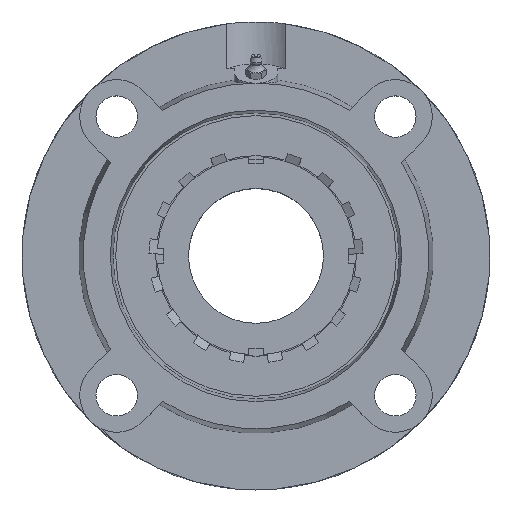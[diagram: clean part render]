
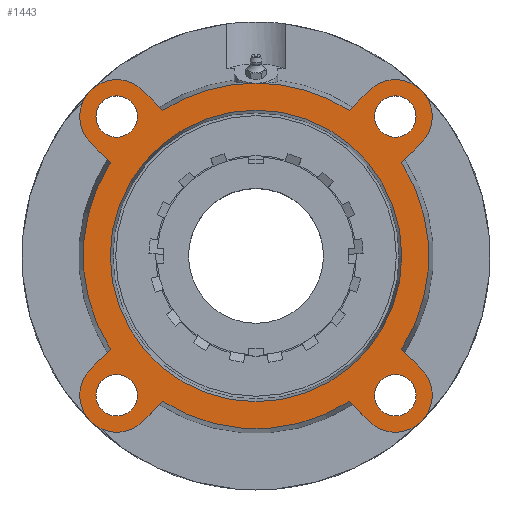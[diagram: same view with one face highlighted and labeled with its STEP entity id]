
A CAD part, top view. The second image highlights one B-rep face of the part: STEP entity #1443.
In plain terms, the highlighted planar face has unit normal (0, 0, 1).
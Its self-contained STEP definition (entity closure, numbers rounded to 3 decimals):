
#181=CARTESIAN_POINT('',(65.928,-77.428,26.));
#182=VERTEX_POINT('',#181);
#183=CARTESIAN_POINT('',(77.428,-77.428,26.));
#184=DIRECTION('',(0.0,0.0,-1.0));
#185=DIRECTION('',(1.0,0.0,0.0));
#186=AXIS2_PLACEMENT_3D('',#183,#184,#185);
#187=CIRCLE('',#186,11.5);
#188=EDGE_CURVE('',#182,#182,#187,.T.);
#209=CARTESIAN_POINT('',(-88.928,77.428,26.));
#210=VERTEX_POINT('',#209);
#211=CARTESIAN_POINT('',(-77.428,77.428,26.));
#212=DIRECTION('',(0.0,0.0,-1.0));
#213=DIRECTION('',(1.0,0.0,0.0));
#214=AXIS2_PLACEMENT_3D('',#211,#212,#213);
#215=CIRCLE('',#214,11.5);
#216=EDGE_CURVE('',#210,#210,#215,.T.);
#237=CARTESIAN_POINT('',(-88.928,-77.428,26.));
#238=VERTEX_POINT('',#237);
#239=CARTESIAN_POINT('',(-77.428,-77.428,26.));
#240=DIRECTION('',(0.0,0.0,-1.0));
#241=DIRECTION('',(1.0,0.0,0.0));
#242=AXIS2_PLACEMENT_3D('',#239,#240,#241);
#243=CIRCLE('',#242,11.5);
#244=EDGE_CURVE('',#238,#238,#243,.T.);
#265=CARTESIAN_POINT('',(65.928,77.428,26.));
#266=VERTEX_POINT('',#265);
#267=CARTESIAN_POINT('',(77.428,77.428,26.));
#268=DIRECTION('',(0.0,0.0,-1.0));
#269=DIRECTION('',(1.0,0.0,0.0));
#270=AXIS2_PLACEMENT_3D('',#267,#268,#269);
#271=CIRCLE('',#270,11.5);
#272=EDGE_CURVE('',#266,#266,#271,.T.);
#445=CARTESIAN_POINT('',(0.0,81.0,26.));
#446=VERTEX_POINT('',#445);
#447=CARTESIAN_POINT('',(0.0,0.,26.));
#448=DIRECTION('',(0.0,0.0,-1.0));
#449=DIRECTION('',(0.0,1.0,0.0));
#450=AXIS2_PLACEMENT_3D('',#447,#448,#449);
#451=CIRCLE('',#450,81.0);
#452=EDGE_CURVE('',#446,#446,#451,.T.);
#722=CARTESIAN_POINT('',(0.,96.0,26.));
#723=VERTEX_POINT('',#722);
#845=CARTESIAN_POINT('',(-51.821,80.812,26.));
#846=VERTEX_POINT('',#845);
#860=CARTESIAN_POINT('',(0.0,0.,26.));
#861=DIRECTION('',(0.0,0.0,-1.0));
#862=DIRECTION('',(0.0,1.0,0.0));
#863=AXIS2_PLACEMENT_3D('',#860,#861,#862);
#864=CIRCLE('',#863,96.);
#865=EDGE_CURVE('',#846,#723,#864,.T.);
#878=CARTESIAN_POINT('',(51.821,80.812,26.));
#879=VERTEX_POINT('',#878);
#880=CARTESIAN_POINT('',(0.0,0.,26.));
#881=DIRECTION('',(0.0,0.0,-1.0));
#882=DIRECTION('',(0.0,1.0,0.0));
#883=AXIS2_PLACEMENT_3D('',#880,#881,#882);
#884=CIRCLE('',#883,96.);
#885=EDGE_CURVE('',#723,#879,#884,.T.);
#909=CARTESIAN_POINT('',(-80.812,51.821,26.));
#910=VERTEX_POINT('',#909);
#926=CARTESIAN_POINT('',(-91.924,62.933,26.));
#927=VERTEX_POINT('',#926);
#928=CARTESIAN_POINT('',(-80.812,51.821,26.));
#929=DIRECTION('',(-0.707,0.707,0.));
#930=VECTOR('',#929,15.714);
#931=LINE('',#928,#930);
#932=EDGE_CURVE('',#910,#927,#931,.T.);
#956=CARTESIAN_POINT('',(-51.821,-80.812,26.));
#957=VERTEX_POINT('',#956);
#973=CARTESIAN_POINT('',(-62.933,-91.924,26.));
#974=VERTEX_POINT('',#973);
#975=CARTESIAN_POINT('',(-51.821,-80.812,26.));
#976=DIRECTION('',(-0.707,-0.707,0.));
#977=VECTOR('',#976,15.714);
#978=LINE('',#975,#977);
#979=EDGE_CURVE('',#957,#974,#978,.T.);
#1003=CARTESIAN_POINT('',(80.812,-51.821,26.));
#1004=VERTEX_POINT('',#1003);
#1020=CARTESIAN_POINT('',(91.924,-62.933,26.));
#1021=VERTEX_POINT('',#1020);
#1022=CARTESIAN_POINT('',(80.812,-51.821,26.));
#1023=DIRECTION('',(0.707,-0.707,0.));
#1024=VECTOR('',#1023,15.714);
#1025=LINE('',#1022,#1024);
#1026=EDGE_CURVE('',#1004,#1021,#1025,.T.);
#1051=CARTESIAN_POINT('',(62.933,91.924,26.));
#1052=VERTEX_POINT('',#1051);
#1053=CARTESIAN_POINT('',(51.821,80.812,26.));
#1054=DIRECTION('',(0.707,0.707,0.));
#1055=VECTOR('',#1054,15.714);
#1056=LINE('',#1053,#1055);
#1057=EDGE_CURVE('',#879,#1052,#1056,.T.);
#1076=CARTESIAN_POINT('',(51.821,-80.812,26.));
#1077=VERTEX_POINT('',#1076);
#1099=CARTESIAN_POINT('',(62.933,-91.924,26.));
#1100=VERTEX_POINT('',#1099);
#1107=CARTESIAN_POINT('',(62.933,-91.924,26.));
#1108=DIRECTION('',(-0.707,0.707,0.0));
#1109=VECTOR('',#1108,15.714);
#1110=LINE('',#1107,#1109);
#1111=EDGE_CURVE('',#1100,#1077,#1110,.T.);
#1121=CARTESIAN_POINT('',(-91.924,-62.933,26.));
#1122=VERTEX_POINT('',#1121);
#1123=CARTESIAN_POINT('',(-77.428,-77.428,26.));
#1124=DIRECTION('',(0.0,0.0,-1.0));
#1125=DIRECTION('',(-0.638,0.77,0.0));
#1126=AXIS2_PLACEMENT_3D('',#1123,#1124,#1125);
#1127=CIRCLE('',#1126,20.5);
#1128=EDGE_CURVE('',#974,#1122,#1127,.T.);
#1163=CARTESIAN_POINT('',(-80.812,-51.821,26.));
#1164=VERTEX_POINT('',#1163);
#1185=CARTESIAN_POINT('',(-91.924,-62.933,26.));
#1186=DIRECTION('',(0.707,0.707,0.0));
#1187=VECTOR('',#1186,15.714);
#1188=LINE('',#1185,#1187);
#1189=EDGE_CURVE('',#1122,#1164,#1188,.T.);
#1199=CARTESIAN_POINT('',(-62.933,91.924,26.));
#1200=VERTEX_POINT('',#1199);
#1201=CARTESIAN_POINT('',(-77.428,77.428,26.));
#1202=DIRECTION('',(0.0,0.0,-1.0));
#1203=DIRECTION('',(0.77,0.638,0.0));
#1204=AXIS2_PLACEMENT_3D('',#1201,#1202,#1203);
#1205=CIRCLE('',#1204,20.5);
#1206=EDGE_CURVE('',#927,#1200,#1205,.T.);
#1234=CARTESIAN_POINT('',(-62.933,91.924,26.));
#1235=DIRECTION('',(0.707,-0.707,0.0));
#1236=VECTOR('',#1235,15.714);
#1237=LINE('',#1234,#1236);
#1238=EDGE_CURVE('',#1200,#846,#1237,.T.);
#1248=CARTESIAN_POINT('',(91.924,62.933,26.));
#1249=VERTEX_POINT('',#1248);
#1250=CARTESIAN_POINT('',(77.428,77.428,26.));
#1251=DIRECTION('',(0.0,0.0,-1.0));
#1252=DIRECTION('',(0.638,-0.77,0.0));
#1253=AXIS2_PLACEMENT_3D('',#1250,#1251,#1252);
#1254=CIRCLE('',#1253,20.5);
#1255=EDGE_CURVE('',#1052,#1249,#1254,.T.);
#1284=CARTESIAN_POINT('',(80.812,51.821,26.));
#1285=VERTEX_POINT('',#1284);
#1306=CARTESIAN_POINT('',(91.924,62.933,26.));
#1307=DIRECTION('',(-0.707,-0.707,0.0));
#1308=VECTOR('',#1307,15.714);
#1309=LINE('',#1306,#1308);
#1310=EDGE_CURVE('',#1249,#1285,#1309,.T.);
#1320=CARTESIAN_POINT('',(77.428,-77.428,26.));
#1321=DIRECTION('',(0.0,0.0,-1.0));
#1322=DIRECTION('',(-0.77,-0.638,0.0));
#1323=AXIS2_PLACEMENT_3D('',#1320,#1321,#1322);
#1324=CIRCLE('',#1323,20.5);
#1325=EDGE_CURVE('',#1021,#1100,#1324,.T.);
#1386=CARTESIAN_POINT('',(0.0,48.,26.));
#1387=DIRECTION('',(0.0,0.0,1.0));
#1388=DIRECTION('',(1.0,0.0,0.0));
#1389=AXIS2_PLACEMENT_3D('',#1386,#1387,#1388);
#1390=PLANE('',#1389);
#1391=CARTESIAN_POINT('',(0.0,0.,26.));
#1392=DIRECTION('',(0.0,0.0,-1.0));
#1393=DIRECTION('',(0.0,1.0,0.0));
#1394=AXIS2_PLACEMENT_3D('',#1391,#1392,#1393);
#1395=CIRCLE('',#1394,96.);
#1396=EDGE_CURVE('',#1077,#957,#1395,.T.);
#1397=ORIENTED_EDGE('',*,*,#1396,.F.);
#1398=ORIENTED_EDGE('',*,*,#1111,.F.);
#1399=ORIENTED_EDGE('',*,*,#1325,.F.);
#1400=ORIENTED_EDGE('',*,*,#1026,.F.);
#1401=CARTESIAN_POINT('',(0.0,0.,26.));
#1402=DIRECTION('',(0.0,0.0,-1.0));
#1403=DIRECTION('',(0.0,1.0,0.0));
#1404=AXIS2_PLACEMENT_3D('',#1401,#1402,#1403);
#1405=CIRCLE('',#1404,96.);
#1406=EDGE_CURVE('',#1285,#1004,#1405,.T.);
#1407=ORIENTED_EDGE('',*,*,#1406,.F.);
#1408=ORIENTED_EDGE('',*,*,#1310,.F.);
#1409=ORIENTED_EDGE('',*,*,#1255,.F.);
#1410=ORIENTED_EDGE('',*,*,#1057,.F.);
#1411=ORIENTED_EDGE('',*,*,#885,.F.);
#1412=ORIENTED_EDGE('',*,*,#865,.F.);
#1413=ORIENTED_EDGE('',*,*,#1238,.F.);
#1414=ORIENTED_EDGE('',*,*,#1206,.F.);
#1415=ORIENTED_EDGE('',*,*,#932,.F.);
#1416=CARTESIAN_POINT('',(0.0,0.,26.));
#1417=DIRECTION('',(0.0,0.0,-1.0));
#1418=DIRECTION('',(0.0,1.0,0.0));
#1419=AXIS2_PLACEMENT_3D('',#1416,#1417,#1418);
#1420=CIRCLE('',#1419,96.);
#1421=EDGE_CURVE('',#1164,#910,#1420,.T.);
#1422=ORIENTED_EDGE('',*,*,#1421,.F.);
#1423=ORIENTED_EDGE('',*,*,#1189,.F.);
#1424=ORIENTED_EDGE('',*,*,#1128,.F.);
#1425=ORIENTED_EDGE('',*,*,#979,.F.);
#1426=EDGE_LOOP('',(#1397,#1398,#1399,#1400,#1407,#1408,#1409,#1410,#1411,#1412,#1413,#1414,#1415,#1422,#1423,#1424,#1425));
#1427=FACE_OUTER_BOUND('',#1426,.T.);
#1428=ORIENTED_EDGE('',*,*,#188,.T.);
#1429=EDGE_LOOP('',(#1428));
#1430=FACE_BOUND('',#1429,.T.);
#1431=ORIENTED_EDGE('',*,*,#216,.T.);
#1432=EDGE_LOOP('',(#1431));
#1433=FACE_BOUND('',#1432,.T.);
#1434=ORIENTED_EDGE('',*,*,#244,.T.);
#1435=EDGE_LOOP('',(#1434));
#1436=FACE_BOUND('',#1435,.T.);
#1437=ORIENTED_EDGE('',*,*,#272,.T.);
#1438=EDGE_LOOP('',(#1437));
#1439=FACE_BOUND('',#1438,.T.);
#1440=ORIENTED_EDGE('',*,*,#452,.T.);
#1441=EDGE_LOOP('',(#1440));
#1442=FACE_BOUND('',#1441,.T.);
#1443=ADVANCED_FACE('',(#1427,#1430,#1433,#1436,#1439,#1442),#1390,.T.);
